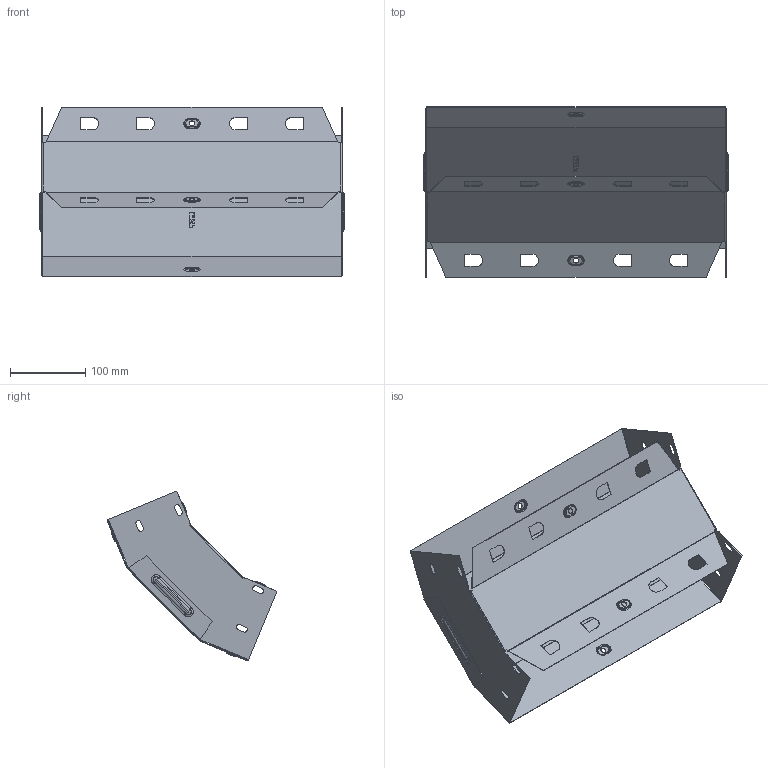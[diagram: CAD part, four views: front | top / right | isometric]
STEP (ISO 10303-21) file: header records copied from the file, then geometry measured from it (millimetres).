
FILE_DESCRIPTION (( 'STEP AP214' ), '1' );
FILE_NAME ('vo45100400_捘.STEP', '2019-06-10T08:17:04', ( '砐錪賧瘔蠈錪 Windows' ), ( '' ), 'SwSTEP 2.0', 'SolidWorks 2018', '' );
FILE_SCHEMA (( 'AUTOMOTIVE_DESIGN' ));
Length unit declared in the file: millimetre
Products named in the file (1): vo45100400_捘
Bounding box: 405.6 x 226.34 x 226.34 mm (x, y, z)
Volume: 188394.3 mm3; surface area: 474621.4 mm2
Topology: 2 solids, 2 shells, 404 faces, 1014 edges, 636 vertices
Faces by surface type: plane 197, cylinder 126, torus 64, bspline 17
Entity records: 12726 total; most frequent: CARTESIAN_POINT 2819, DIRECTION 2072, ORIENTED_EDGE 2028, EDGE_CURVE 1014, AXIS2_PLACEMENT_3D 720, VERTEX_POINT 636, LINE 632, VECTOR 632
